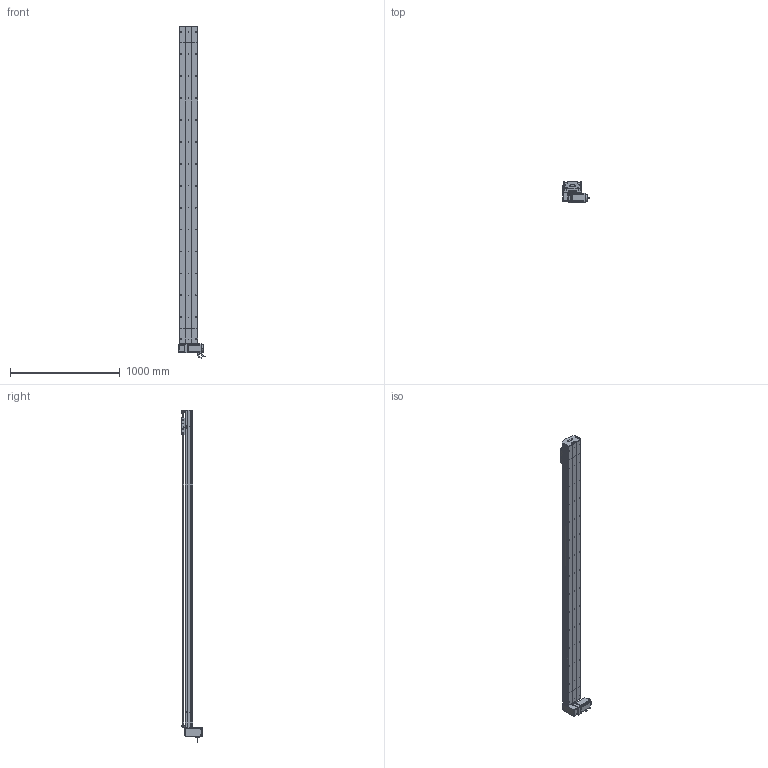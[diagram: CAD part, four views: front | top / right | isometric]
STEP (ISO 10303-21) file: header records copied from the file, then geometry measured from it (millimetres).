
FILE_DESCRIPTION (( 'STEP AP214' ), '1' );
FILE_NAME ('D17 TBH RU S2600.STEP', '2010-06-30T08:49:31', ( 'Christophe Gaillard' ), ( 'SGA' ), 'SwSTEP 2.0', 'SolidWorks 2010', '' );
FILE_SCHEMA (( 'AUTOMOTIVE_DESIGN' ));
Length unit declared in the file: millimetre
Products named in the file (40): plaque de  bout tail D17B_Default; corps 90BLDC125A-640; avant 90BLDC125A-640; Moteur motionking 90BLDC125A-640; couroie head D17_Default; corp D17B 2600_Default; poulie head_Default; vis M5 L5_Default; couvercle D17B course L2600_Default; cache D17_Default; Arbre+rail head D17B; plaque de  bout head D17B RU_Default; Head RU D17B_Default; couvercle D17B head_Default; corpl head D17 _Default; codeur 90BLDC125-640; Conecteur2_Default; poulie tail_Default; course 2600 D17B_Default; Couroie tail D17B_Default; couvercle D17B_Default; vis M5 L8 90°_Default; guide D17; D17 TBH RU S2600; Couroie+ rail D17 Course 2600 ; Chariot D17; Tail D17B_Default; chariot D17S_Default; vis M5 L25_Default; vis M5 L12_Default; vis M5 L70_Default; Plaque racord D17_Default; vis M5 L16_Default; Vis M5 L16-2_Default; cache arbre D17_Default; Renvoi RU_Default; Conecteur_Default; corpl tail D17B_Default; Rail D17B; tete d''axe poulie D17B
Assembly tree (70 placements, depth 4):
  D17 TBH RU S2600
    chariot D17S_Default
      vis M5 L12_Default  x4
      Chariot D17
      guide D17  x2
    Head RU D17B_Default
      Renvoi RU_Default
      couroie head D17_Default
      Vis M5 L16-2_Default  x4
      plaque de  bout head D17B RU_Default
      vis M5 L12_Default  x8
      vis M5 L16_Default  x2
      cache D17_Default  x2
      vis M5 L5_Default  x4
      vis M5 L70_Default  x4
      corpl head D17 _Default
      cache arbre D17_Default
      vis M5 L25_Default  x2
      Arbre+rail head D17B
      poulie head_Default
      Plaque racord D17_Default
      couvercle D17B head_Default
      Moteur motionking 90BLDC125A-640
        codeur 90BLDC125-640
        Conecteur2_Default
        Conecteur_Default
        avant 90BLDC125A-640
        corps 90BLDC125A-640
    Tail D17B_Default
      Couroie tail D17B_Default
      couvercle D17B_Default
      plaque de  bout tail D17B_Default
      vis M5 L12_Default  x4
      vis M5 L8 90°_Default  x2
      vis M5 L25_Default  x2
      corpl tail D17B_Default
      Rail D17B
      tete d''axe poulie D17B
      poulie tail_Default
    course 2600 D17B_Default
      corp D17B 2600_Default
      Couroie+ rail D17 Course 2600 
      couvercle D17B course L2600_Default
Bounding box: 245.2 x 188.65 x 3023.95 mm (x, y, z)
Volume: 17425107.7 mm3; surface area: 5054583.2 mm2
Topology: 94 solids, 94 shells, 2749 faces, 6997 edges, 4502 vertices
Faces by surface type: plane 1607, cylinder 829, bspline 136, cone 88, torus 85, sphere 4
Entity records: 86784 total; most frequent: CARTESIAN_POINT 25497, ORIENTED_EDGE 10766, DIRECTION 10204, EDGE_CURVE 5383, VERTEX_POINT 3526, VECTOR 3518, LINE 3518, AXIS2_PLACEMENT_3D 3343
